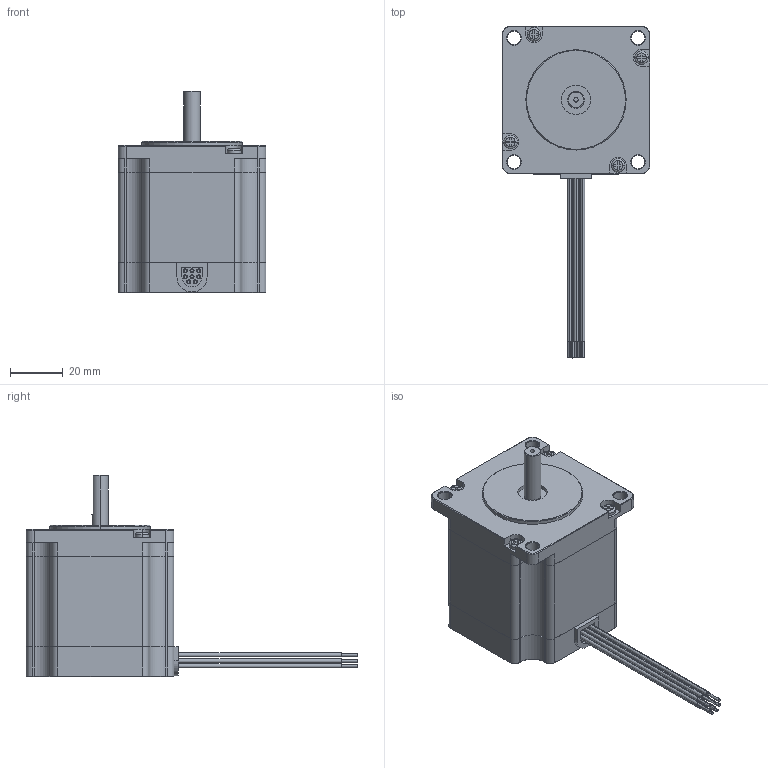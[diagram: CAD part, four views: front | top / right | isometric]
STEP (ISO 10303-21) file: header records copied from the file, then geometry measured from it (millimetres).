
FILE_DESCRIPTION (( 'STEP AP214' ), '1' );
FILE_NAME ('23Y102S-LW8.STEP', '2010-06-11T15:23:23', ( 'Tim Raines' ), ( 'Anaheim Automation' ), 'SwSTEP 2.0', 'SolidWorks 2010', '' );
FILE_SCHEMA (( 'AUTOMOTIVE_DESIGN' ));
Length unit declared in the file: inch
Products named in the file (1): 23Y102S-LW8
Bounding box: 56.13 x 125.98 x 76.56 mm (x, y, z)
Volume: 160949.1 mm3; surface area: 21929.6 mm2
Topology: 1 solids, 1 shells, 336 faces, 830 edges, 526 vertices
Faces by surface type: plane 164, cylinder 117, cone 47, torus 8
Entity records: 14282 total; most frequent: DIRECTION 1785, CARTESIAN_POINT 1691, ORIENTED_EDGE 1644, EDGE_CURVE 822, AXIS2_PLACEMENT_3D 628, LINE 529, VECTOR 529, VERTEX_POINT 526
